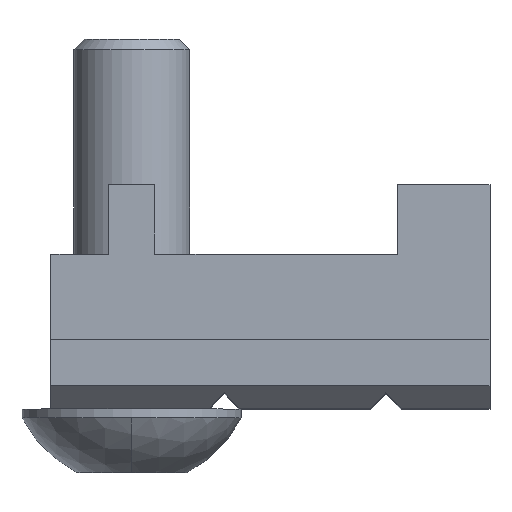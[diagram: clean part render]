
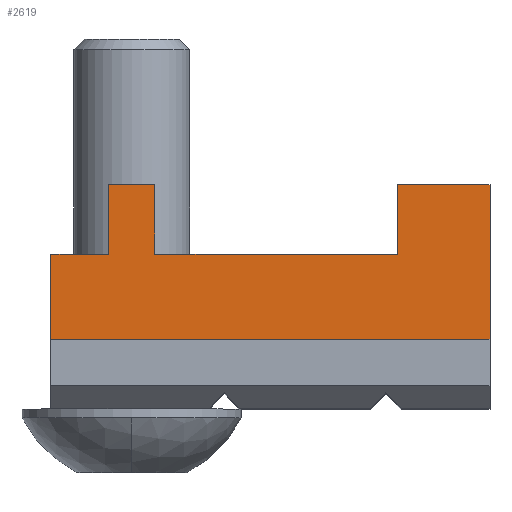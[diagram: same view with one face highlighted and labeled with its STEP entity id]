
A CAD part, top view. The second image highlights one B-rep face of the part: STEP entity #2619.
In plain terms, the highlighted planar face has unit normal (0, 0, 1).
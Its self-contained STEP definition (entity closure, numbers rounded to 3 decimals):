
#36 = DIRECTION ( 'NONE',  ( 0., 1., 0. ) ) ;
#40 = VECTOR ( 'NONE', #41, 1000. ) ;
#41 = DIRECTION ( 'NONE',  ( 1., 0., 0. ) ) ;
#90 = CARTESIAN_POINT ( 'NONE',  ( -9.5, 9.7, 4. ) ) ;
#103 = CARTESIAN_POINT ( 'NONE',  ( -9.5, 9.7, 4. ) ) ;
#115 = DIRECTION ( 'NONE',  ( 1., 0., 0. ) ) ;
#143 = VERTEX_POINT ( 'NONE', #1413 ) ;
#156 = DIRECTION ( 'NONE',  ( 0., 1., 0. ) ) ;
#233 = FACE_OUTER_BOUND ( 'NONE', #1857, .T. ) ;
#246 = VECTOR ( 'NONE', #1513, 1000. ) ;
#259 = VERTEX_POINT ( 'NONE', #2115 ) ;
#283 = LINE ( 'NONE', #90, #1288 ) ;
#288 = CARTESIAN_POINT ( 'NONE',  ( -5., 9.7, 4. ) ) ;
#322 = VERTEX_POINT ( 'NONE', #2519 ) ;
#359 = DIRECTION ( 'NONE',  ( 1., 0., 0. ) ) ;
#380 = EDGE_CURVE ( 'NONE', #143, #259, #1803, .T. ) ;
#426 = CARTESIAN_POINT ( 'NONE',  ( 5.5, 9.7, 4. ) ) ;
#496 = VECTOR ( 'NONE', #1326, 1000. ) ;
#505 = VERTEX_POINT ( 'NONE', #1647 ) ;
#531 = ORIENTED_EDGE ( 'NONE', *, *, #1781, .F. ) ;
#596 = EDGE_CURVE ( 'NONE', #322, #505, #2062, .T. ) ;
#603 = VECTOR ( 'NONE', #849, 1000. ) ;
#632 = LINE ( 'NONE', #872, #603 ) ;
#681 = EDGE_CURVE ( 'NONE', #2358, #1071, #1174, .T. ) ;
#754 = DIRECTION ( 'NONE',  ( 0., 1., 0. ) ) ;
#782 = ORIENTED_EDGE ( 'NONE', *, *, #1456, .F. ) ;
#787 = CARTESIAN_POINT ( 'NONE',  ( 9.5, 9.7, 4. ) ) ;
#841 = EDGE_CURVE ( 'NONE', #505, #2358, #283, .T. ) ;
#849 = DIRECTION ( 'NONE',  ( 1., 0., 0. ) ) ;
#854 = CARTESIAN_POINT ( 'NONE',  ( 5.5, 9.7, 4. ) ) ;
#872 = CARTESIAN_POINT ( 'NONE',  ( -9.5, 9.7, 4. ) ) ;
#875 = EDGE_CURVE ( 'NONE', #887, #1328, #632, .T. ) ;
#887 = VERTEX_POINT ( 'NONE', #854 ) ;
#1071 = VERTEX_POINT ( 'NONE', #1307 ) ;
#1078 = EDGE_CURVE ( 'NONE', #259, #322, #1679, .T. ) ;
#1082 = ORIENTED_EDGE ( 'NONE', *, *, #2250, .T. ) ;
#1148 = DIRECTION ( 'NONE',  ( 0., 1., 0. ) ) ;
#1174 = LINE ( 'NONE', #1970, #246 ) ;
#1177 = CARTESIAN_POINT ( 'NONE',  ( 9.5, 3., 4. ) ) ;
#1200 = EDGE_CURVE ( 'NONE', #2100, #1328, #2166, .T. ) ;
#1202 = CARTESIAN_POINT ( 'NONE',  ( -7., 9.7, 4. ) ) ;
#1227 = LINE ( 'NONE', #1908, #1263 ) ;
#1258 = DIRECTION ( 'NONE',  ( 0., 0., -1. ) ) ;
#1263 = VECTOR ( 'NONE', #1856, 1000. ) ;
#1288 = VECTOR ( 'NONE', #359, 1000. ) ;
#1307 = CARTESIAN_POINT ( 'NONE',  ( -5., 6.7, 4. ) ) ;
#1326 = DIRECTION ( 'NONE',  ( 0., 1., 0. ) ) ;
#1328 = VERTEX_POINT ( 'NONE', #2447 ) ;
#1345 = ORIENTED_EDGE ( 'NONE', *, *, #1078, .F. ) ;
#1413 = CARTESIAN_POINT ( 'NONE',  ( -9.5, 3., 4. ) ) ;
#1449 = VERTEX_POINT ( 'NONE', #1891 ) ;
#1456 = EDGE_CURVE ( 'NONE', #1071, #1449, #1227, .T. ) ;
#1513 = DIRECTION ( 'NONE',  ( 0., -1., 0. ) ) ;
#1647 = CARTESIAN_POINT ( 'NONE',  ( -7., 9.7, 4. ) ) ;
#1679 = LINE ( 'NONE', #2589, #40 ) ;
#1780 = ORIENTED_EDGE ( 'NONE', *, *, #875, .F. ) ;
#1781 = EDGE_CURVE ( 'NONE', #1449, #887, #2512, .T. ) ;
#1803 = LINE ( 'NONE', #2167, #2377 ) ;
#1806 = VECTOR ( 'NONE', #156, 1000. ) ;
#1823 = AXIS2_PLACEMENT_3D ( 'NONE', #103, #1258, #36 ) ;
#1856 = DIRECTION ( 'NONE',  ( 1., 0., 0. ) ) ;
#1857 = EDGE_LOOP ( 'NONE', ( #2174, #2647, #1345, #2546, #1082, #2288, #1780, #531, #782, #2370 ) ) ;
#1891 = CARTESIAN_POINT ( 'NONE',  ( 5.5, 6.7, 4. ) ) ;
#1908 = CARTESIAN_POINT ( 'NONE',  ( 5.5, 6.7, 4. ) ) ;
#1970 = CARTESIAN_POINT ( 'NONE',  ( -5., 9.7, 4. ) ) ;
#1994 = VECTOR ( 'NONE', #115, 1000. ) ;
#2062 = LINE ( 'NONE', #1202, #496 ) ;
#2066 = PLANE ( 'NONE',  #1823 ) ;
#2100 = VERTEX_POINT ( 'NONE', #1177 ) ;
#2115 = CARTESIAN_POINT ( 'NONE',  ( -9.5, 6.7, 4. ) ) ;
#2166 = LINE ( 'NONE', #787, #1806 ) ;
#2167 = CARTESIAN_POINT ( 'NONE',  ( -9.5, 9.7, 4. ) ) ;
#2174 = ORIENTED_EDGE ( 'NONE', *, *, #841, .F. ) ;
#2197 = VECTOR ( 'NONE', #1148, 1000. ) ;
#2250 = EDGE_CURVE ( 'NONE', #143, #2100, #2441, .T. ) ;
#2288 = ORIENTED_EDGE ( 'NONE', *, *, #1200, .T. ) ;
#2358 = VERTEX_POINT ( 'NONE', #288 ) ;
#2370 = ORIENTED_EDGE ( 'NONE', *, *, #681, .F. ) ;
#2377 = VECTOR ( 'NONE', #754, 1000. ) ;
#2441 = LINE ( 'NONE', #2492, #1994 ) ;
#2447 = CARTESIAN_POINT ( 'NONE',  ( 9.5, 9.7, 4. ) ) ;
#2492 = CARTESIAN_POINT ( 'NONE',  ( -9.5, 3., 4. ) ) ;
#2512 = LINE ( 'NONE', #426, #2197 ) ;
#2519 = CARTESIAN_POINT ( 'NONE',  ( -7., 6.7, 4. ) ) ;
#2546 = ORIENTED_EDGE ( 'NONE', *, *, #380, .F. ) ;
#2589 = CARTESIAN_POINT ( 'NONE',  ( -9.5, 6.7, 4. ) ) ;
#2619 = ADVANCED_FACE ( 'NONE', ( #233 ), #2066, .F. ) ;
#2647 = ORIENTED_EDGE ( 'NONE', *, *, #596, .F. ) ;
